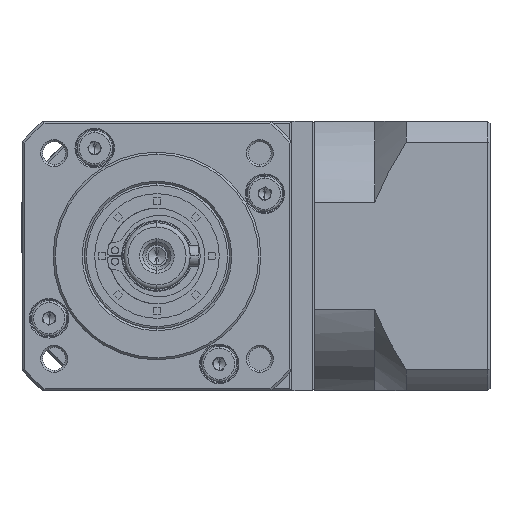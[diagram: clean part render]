
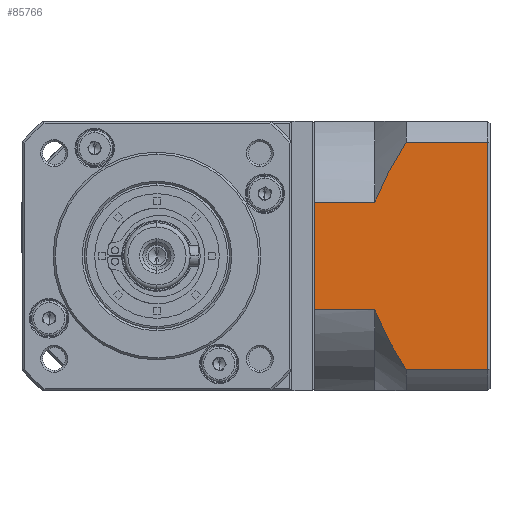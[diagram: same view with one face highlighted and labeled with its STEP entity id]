
A CAD part, left-side view. The second image highlights one B-rep face of the part: STEP entity #85766.
In plain terms, the highlighted planar face has unit normal (-1, 0, 0).
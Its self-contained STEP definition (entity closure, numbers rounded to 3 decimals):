
#2896 = EDGE_CURVE ( 'NONE', #120375, #61774, #52671, .T. ) ;
#4063 = ORIENTED_EDGE ( 'NONE', *, *, #84535, .F. ) ;
#8372 = EDGE_CURVE ( 'NONE', #158495, #73919, #10215, .T. ) ;
#10215 = LINE ( 'NONE', #20569, #14284 ) ;
#12052 = CARTESIAN_POINT ( 'NONE',  ( -45.204, -63.199, -147.421 ) ) ;
#12603 = CARTESIAN_POINT ( 'NONE',  ( -45.204, -68.746, -158.267 ) ) ;
#14284 = VECTOR ( 'NONE', #19439, 1000. ) ;
#15749 = DIRECTION ( 'NONE',  ( 0., 1., 0. ) ) ;
#19439 = DIRECTION ( 'NONE',  ( 0., 0., 1. ) ) ;
#20569 = CARTESIAN_POINT ( 'NONE',  ( -45.204, -89.908, -165.649 ) ) ;
#21897 = LINE ( 'NONE', #77472, #56209 ) ;
#23957 = ORIENTED_EDGE ( 'NONE', *, *, #113195, .F. ) ;
#24564 = CARTESIAN_POINT ( 'NONE',  ( -45.204, -62.708, -120.159 ) ) ;
#27877 = DIRECTION ( 'NONE',  ( 0., -1., 0. ) ) ;
#29872 = CARTESIAN_POINT ( 'NONE',  ( -45.204, -62.708, -146.14 ) ) ;
#34330 = CARTESIAN_POINT ( 'NONE',  ( -45.204, -70.208, -105.763 ) ) ;
#38022 = ORIENTED_EDGE ( 'NONE', *, *, #156091, .T. ) ;
#39693 = LINE ( 'NONE', #157810, #86069 ) ;
#44033 = EDGE_CURVE ( 'NONE', #130298, #144493, #103522, .T. ) ;
#45094 = EDGE_LOOP ( 'NONE', ( #4063, #157235, #143326, #78306, #68293, #38022, #23957, #82518 ) ) ;
#48060 = CARTESIAN_POINT ( 'NONE',  ( -45.204, -90.408, -165.649 ) ) ;
#50974 = CARTESIAN_POINT ( 'NONE',  ( -45.204, -62.946, -146.782 ) ) ;
#52671 = B_SPLINE_CURVE_WITH_KNOTS ( 'NONE', 3,
 ( #67711, #70571, #67885, #67337, #67319, #67177, #67135, #66632 ),
 .UNSPECIFIED., .F., .F.,
 ( 4, 2, 2, 4 ),
 ( 0.058, 0.062, 0.066, 0.074 ),
 .UNSPECIFIED. ) ;
#54647 = DIRECTION ( 'NONE',  ( 0., 1., 0. ) ) ;
#56209 = VECTOR ( 'NONE', #27877, 1000. ) ;
#60466 = PLANE ( 'NONE',  #128549 ) ;
#61020 = DIRECTION ( 'NONE',  ( 0., 1., 0. ) ) ;
#61774 = VERTEX_POINT ( 'NONE', #24564 ) ;
#62503 = CARTESIAN_POINT ( 'NONE',  ( -45.204, -89.908, -160.535 ) ) ;
#63972 = CARTESIAN_POINT ( 'NONE',  ( -45.204, -63.725, -148.682 ) ) ;
#66632 = CARTESIAN_POINT ( 'NONE',  ( -45.204, -62.708, -120.159 ) ) ;
#67135 = CARTESIAN_POINT ( 'NONE',  ( -45.204, -63.65, -117.621 ) ) ;
#67177 = CARTESIAN_POINT ( 'NONE',  ( -45.204, -64.795, -115.169 ) ) ;
#67319 = CARTESIAN_POINT ( 'NONE',  ( -45.204, -66.705, -111.573 ) ) ;
#67337 = CARTESIAN_POINT ( 'NONE',  ( -45.204, -67.375, -110.387 ) ) ;
#67711 = CARTESIAN_POINT ( 'NONE',  ( -45.204, -70.208, -105.763 ) ) ;
#67885 = CARTESIAN_POINT ( 'NONE',  ( -45.204, -68.759, -108.052 ) ) ;
#67920 = VERTEX_POINT ( 'NONE', #119822 ) ;
#68105 = VECTOR ( 'NONE', #54647, 1000. ) ;
#68293 = ORIENTED_EDGE ( 'NONE', *, *, #84002, .F. ) ;
#70571 = CARTESIAN_POINT ( 'NONE',  ( -45.204, -69.475, -106.901 ) ) ;
#73919 = VERTEX_POINT ( 'NONE', #119224 ) ;
#76959 = CARTESIAN_POINT ( 'NONE',  ( -45.204, -64.849, -151.16 ) ) ;
#77472 = CARTESIAN_POINT ( 'NONE',  ( -45.204, -62.708, -120.159 ) ) ;
#78161 = CARTESIAN_POINT ( 'NONE',  ( -45.204, -70.208, -160.535 ) ) ;
#78306 = ORIENTED_EDGE ( 'NONE', *, *, #2896, .T. ) ;
#80819 = EDGE_CURVE ( 'NONE', #120375, #73919, #102116, .T. ) ;
#82518 = ORIENTED_EDGE ( 'NONE', *, *, #44033, .T. ) ;
#84002 = EDGE_CURVE ( 'NONE', #67920, #61774, #21897, .T. ) ;
#84344 = VECTOR ( 'NONE', #15749, 1000. ) ;
#84535 = EDGE_CURVE ( 'NONE', #158495, #144493, #88351, .T. ) ;
#85766 = ADVANCED_FACE ( 'NONE', ( #165274 ), #60466, .F. ) ;
#86069 = VECTOR ( 'NONE', #157270, 1000. ) ;
#88351 = LINE ( 'NONE', #105551, #84344 ) ;
#89875 = CARTESIAN_POINT ( 'NONE',  ( -45.204, -67.359, -155.953 ) ) ;
#102116 = LINE ( 'NONE', #124046, #136257 ) ;
#102949 = CARTESIAN_POINT ( 'NONE',  ( -45.204, -70.208, -160.535 ) ) ;
#103522 = B_SPLINE_CURVE_WITH_KNOTS ( 'NONE', 3,
 ( #141116, #50974, #12052, #63972, #153914, #76959, #166675, #89875, #12603, #102949 ),
 .UNSPECIFIED., .F., .F.,
 ( 4, 2, 2, 2, 4 ),
 ( 0.101, 0.103, 0.105, 0.109, 0.117 ),
 .UNSPECIFIED. ) ;
#105551 = CARTESIAN_POINT ( 'NONE',  ( -45.204, -62.708, -160.535 ) ) ;
#113195 = EDGE_CURVE ( 'NONE', #130298, #148342, #136602, .T. ) ;
#119224 = CARTESIAN_POINT ( 'NONE',  ( -45.204, -89.908, -105.763 ) ) ;
#119822 = CARTESIAN_POINT ( 'NONE',  ( -45.204, -48.208, -120.159 ) ) ;
#120375 = VERTEX_POINT ( 'NONE', #34330 ) ;
#124046 = CARTESIAN_POINT ( 'NONE',  ( -45.204, -62.708, -105.763 ) ) ;
#128549 = AXIS2_PLACEMENT_3D ( 'NONE', #48060, #138157, #61020 ) ;
#130298 = VERTEX_POINT ( 'NONE', #134686 ) ;
#134686 = CARTESIAN_POINT ( 'NONE',  ( -45.204, -62.708, -146.14 ) ) ;
#136257 = VECTOR ( 'NONE', #137464, 1000. ) ;
#136602 = LINE ( 'NONE', #29872, #68105 ) ;
#137464 = DIRECTION ( 'NONE',  ( 0., -1., 0. ) ) ;
#138157 = DIRECTION ( 'NONE',  ( 1., 0., 0. ) ) ;
#141116 = CARTESIAN_POINT ( 'NONE',  ( -45.204, -62.708, -146.14 ) ) ;
#143326 = ORIENTED_EDGE ( 'NONE', *, *, #80819, .F. ) ;
#144493 = VERTEX_POINT ( 'NONE', #78161 ) ;
#148342 = VERTEX_POINT ( 'NONE', #164728 ) ;
#153914 = CARTESIAN_POINT ( 'NONE',  ( -45.204, -63.998, -149.306 ) ) ;
#156091 = EDGE_CURVE ( 'NONE', #67920, #148342, #39693, .T. ) ;
#157235 = ORIENTED_EDGE ( 'NONE', *, *, #8372, .T. ) ;
#157270 = DIRECTION ( 'NONE',  ( 0., 0., -1. ) ) ;
#157810 = CARTESIAN_POINT ( 'NONE',  ( -45.204, -48.208, -165.649 ) ) ;
#158495 = VERTEX_POINT ( 'NONE', #62503 ) ;
#164728 = CARTESIAN_POINT ( 'NONE',  ( -45.204, -48.208, -146.14 ) ) ;
#165274 = FACE_OUTER_BOUND ( 'NONE', #45094, .T. ) ;
#166675 = CARTESIAN_POINT ( 'NONE',  ( -45.204, -65.454, -152.372 ) ) ;
